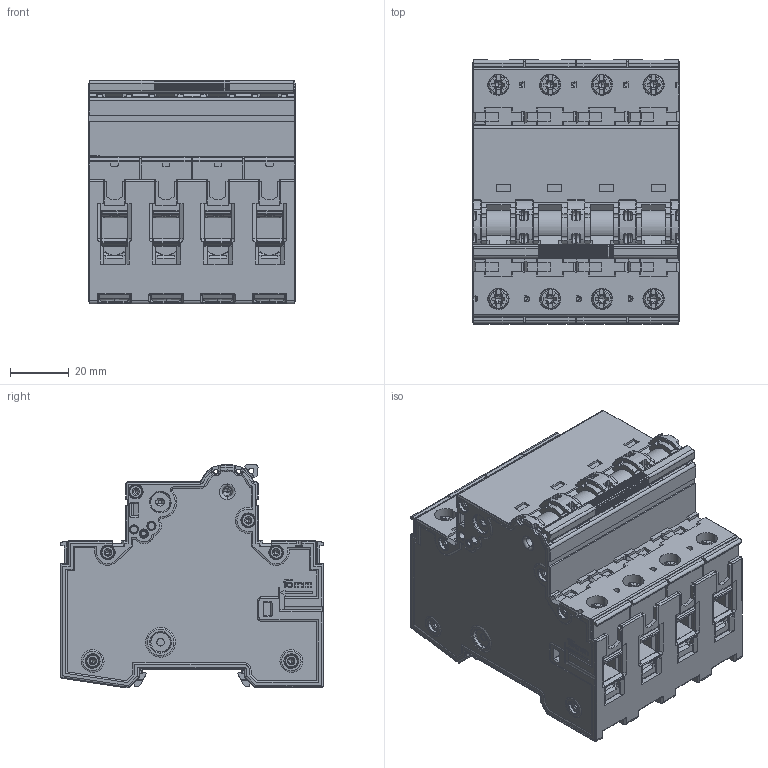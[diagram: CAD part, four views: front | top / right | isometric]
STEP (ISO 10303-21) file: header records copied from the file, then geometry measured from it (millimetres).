
FILE_DESCRIPTION (( 'STEP AP214' ), '1' );
FILE_NAME ('LTN-3N.STEP', '2018-09-05T11:54:32', ( '' ), ( '' ), 'SwSTEP 2.0', 'SolidWorks 2015', '' );
FILE_SCHEMA (( 'AUTOMOTIVE_DESIGN' ));
Length unit declared in the file: millimetre
Products named in the file (1): LTN-3N
Bounding box: 70.4 x 89.8 x 76.11 mm (x, y, z)
Volume: 342026.5 mm3; surface area: 59816.8 mm2
Topology: 9 solids, 9 shells, 4668 faces, 13441 edges, 8805 vertices
Faces by surface type: plane 2803, cylinder 1040, bspline 326, cone 285, torus 153, sphere 61
Entity records: 231092 total; most frequent: CARTESIAN_POINT 67093, ORIENTED_EDGE 26728, DIRECTION 18436, EDGE_CURVE 13364, VERTEX_POINT 8789, LINE 7928, VECTOR 7928, AXIS2_PLACEMENT_3D 5254
